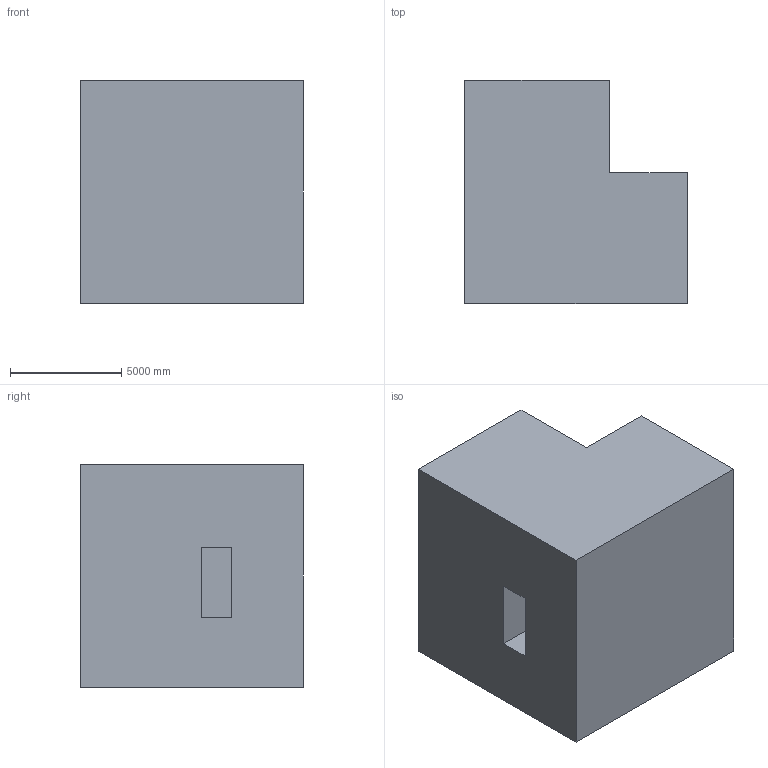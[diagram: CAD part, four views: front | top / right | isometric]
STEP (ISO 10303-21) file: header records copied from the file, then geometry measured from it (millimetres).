
FILE_DESCRIPTION (( 'STEP AP203' ), '1' );
FILE_NAME ('251.STEP', '2022-07-28T14:06:18', ( 'user' ), ( '' ), 'SwSTEP 2.0', 'SolidWorks 2021', '' );
FILE_SCHEMA (( 'CONFIG_CONTROL_DESIGN' ));
Length unit declared in the file: centimetre
Products named in the file (1): 251
Bounding box: 10000 x 10000 x 10000 mm (x, y, z)
Volume: 819008357305.6 mm3; surface area: 647034431.4 mm2
Topology: 1 solids, 1 shells, 15 faces, 36 edges, 24 vertices
Faces by surface type: plane 15
Entity records: 507 total; most frequent: CARTESIAN_POINT 76, ORIENTED_EDGE 72, DIRECTION 68, VECTOR 36, LINE 36, EDGE_CURVE 36, VERTEX_POINT 24, EDGE_LOOP 16
